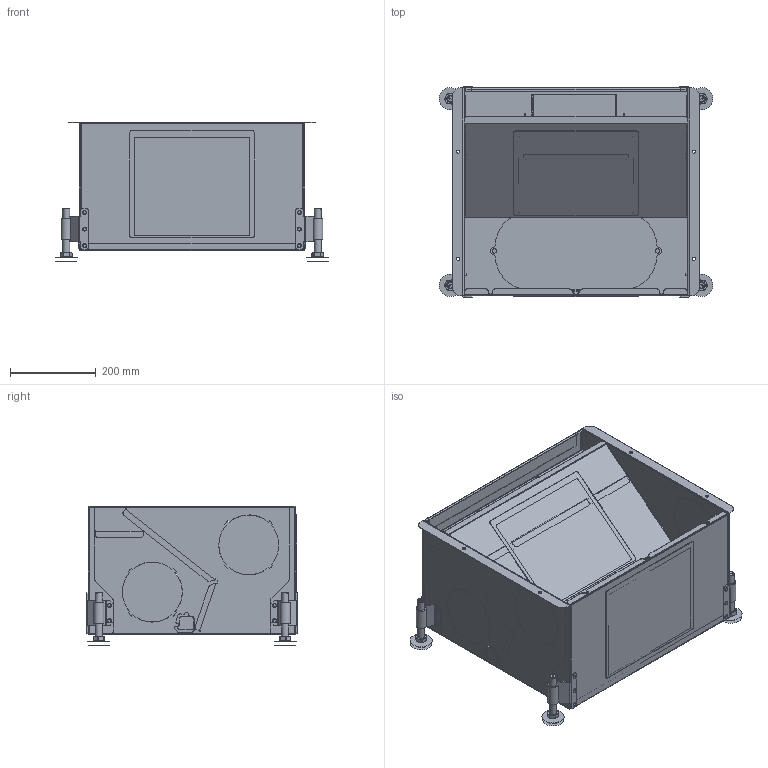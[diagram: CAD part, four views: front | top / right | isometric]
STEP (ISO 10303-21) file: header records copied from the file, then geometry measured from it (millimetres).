
FILE_DESCRIPTION(/* description */ (''),/* implementation_level */ '2;1');
FILE_NAME(/* name */ 'C:\Users\jku\Desktop\Ventibox\2016-00723.stp',/* time_stamp */ '2020-06-11T13:33:42+02:00',/* author */ ('JKU'),/* organization */ (''),/* preprocessor_version */ 'ST-DEVELOPER v17.2',/* originating_system */ 'Autodesk Inventor 2019',/* authorisation */ '');
FILE_SCHEMA (('AUTOMOTIVE_DESIGN { 1 0 10303 214 3 1 1 }'));
Products named in the file (2): 2016-00723; 2016-00723_1
Assembly tree (1 placements, depth 2):
  2016-00723
    2016-00723_1
Bounding box: 638.55 x 493.2 x 325 mm (x, y, z)
Volume: 2245403.1 mm3; surface area: 2512131.4 mm2
Topology: 5 solids, 5 shells, 1768 faces, 4942 edges, 3227 vertices
Faces by surface type: plane 824, cylinder 806, cone 64, bspline 54, torus 20
Full cylindrical faces by diameter (mm): 4.8 x20, 7.5 x4, 9.5 x20, 10 x2, 16 x8, 17 x4, 30 x4
Entity records: 60987 total; most frequent: CARTESIAN_POINT 12636, DIRECTION 10066, ORIENTED_EDGE 9884, EDGE_CURVE 4942, AXIS2_PLACEMENT_3D 3652, VERTEX_POINT 3227, LINE 2762, VECTOR 2762
